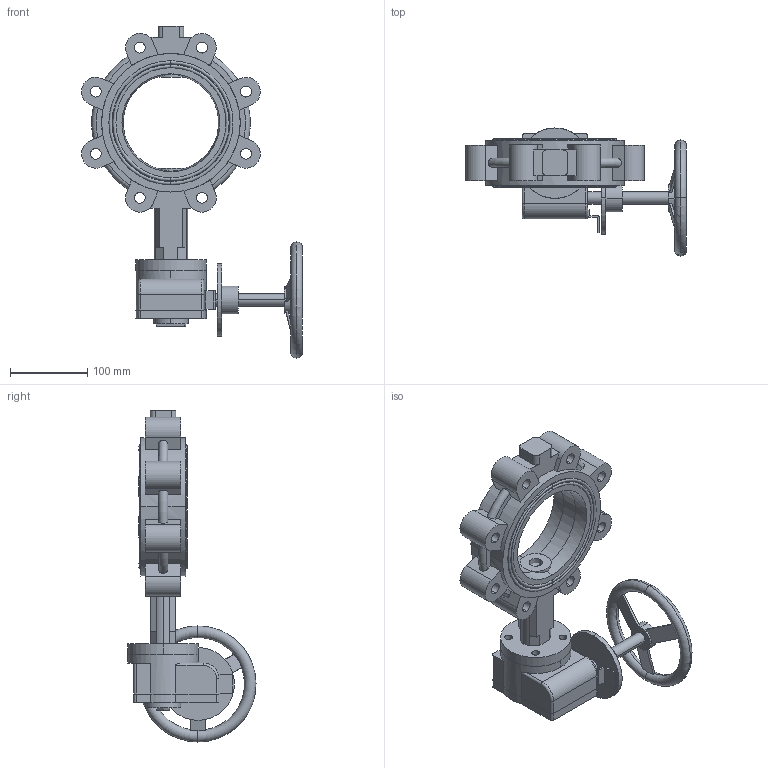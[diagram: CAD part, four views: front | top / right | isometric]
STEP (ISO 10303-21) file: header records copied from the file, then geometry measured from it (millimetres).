
FILE_DESCRIPTION (( 'STEP AP203' ), '1' );
FILE_NAME ('DN125凸耳涡轮头.STEP', '2026-05-22T00:44:43', ( '微软用户' ), ( '微软中国' ), 'SwSTEP 2.0', 'SolidWorks 2024', '' );
FILE_SCHEMA (( 'CONFIG_CONTROL_DESIGN' ));
Length unit declared in the file: millimetre
Products named in the file (4): 5寸涡轮头; 125凸耳，9公斤; DN125凸耳涡轮头; 衬胶5寸
Assembly tree (3 placements, depth 2):
  DN125凸耳涡轮头
    125凸耳，9公斤
    衬胶5寸
    5寸涡轮头
Bounding box: 285.5 x 165.5 x 429 mm (x, y, z)
Volume: 2144415.8 mm3; surface area: 412969.5 mm2
Topology: 6 solids, 6 shells, 316 faces, 827 edges, 536 vertices
Faces by surface type: plane 159, cylinder 121, torus 20, cone 16
Entity records: 11189 total; most frequent: CARTESIAN_POINT 2753, DIRECTION 1741, ORIENTED_EDGE 1650, EDGE_CURVE 825, AXIS2_PLACEMENT_3D 660, VERTEX_POINT 536, LINE 421, VECTOR 421
